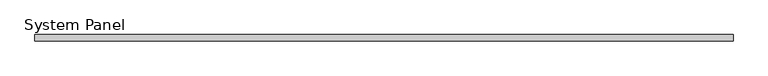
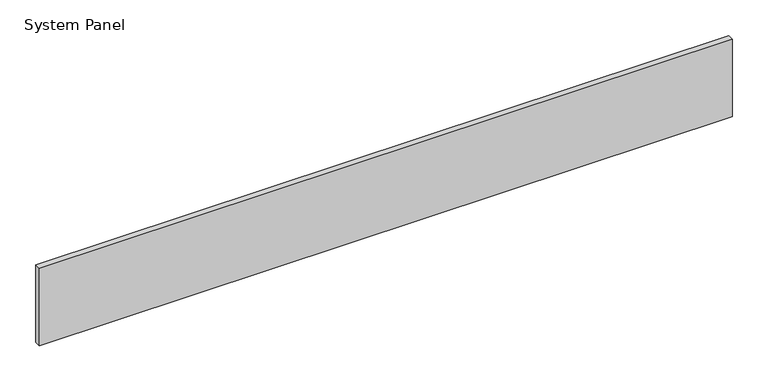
"""IFC4 building model written with IfcOpenShell, lengths in millimetres: plate geometry, System Panel : VACÍO."""

import ifcopenshell
import ifcopenshell.guid

model = None  # the IFC model being written
_history = None  # IfcOwnerHistory: only IFC2X3 demands one
_inside = {}  # id of a spatial element -> (the spatial element, [elements in it])
_under = {}  # id of a project, library or spatial element -> (it, [spatial elements below it])
_declared = {}  # id of a project -> (the project, [libraries it declares])
_typed = {}  # id of a type object -> (the type object, [elements of that type])
_made_of = {}  # id of a material, layer set ... -> (it, [elements and type objects made of it])


def new_model(schema):
    """Start an empty IFC model of exactly this schema.

    Asked for "IFC4X3", IfcOpenShell would pick the latest addendum, in which some entities
    have other attributes; the version numbers below select the first issue.
    IFC2X3 requires an IfcOwnerHistory on every rooted entity: one is made here for all.
    """
    global model, _history
    if schema == "IFC4X3":
        model = ifcopenshell.file(schema_version=(4, 3, 0, 0))
    else:
        model = ifcopenshell.file(schema=schema)
    _inside.clear()
    _under.clear()
    _declared.clear()
    _typed.clear()
    _made_of.clear()
    _history = None
    if model.schema == "IFC2X3":
        org = make("IfcOrganization", Name="unknown")
        user = make(
            "IfcPersonAndOrganization",
            ThePerson=make("IfcPerson", FamilyName="unknown"),
            TheOrganization=org,
        )
        app = make(
            "IfcApplication",
            ApplicationDeveloper=org,
            Version="unknown",
            ApplicationFullName="unknown",
            ApplicationIdentifier="unknown",
        )
        _history = make(
            "IfcOwnerHistory",
            OwningUser=user,
            OwningApplication=app,
            ChangeAction="ADDED",
            CreationDate=0,
        )
    return model


def make(cls, **values):
    """One entity of the class cls with the attributes given. An attribute that is None is left unset."""
    return model.create_entity(
        cls, **{name: value for name, value in values.items() if value is not None}
    )


def rooted(cls, **values):
    """An entity with a GlobalId (a new one), such as an element, a storey or a relation."""
    return make(cls, GlobalId=ifcopenshell.guid.new(), OwnerHistory=_history, **values)


def si_unit(unit_type, name, prefix=None):
    """IfcSIUnit, for example si_unit("LENGTHUNIT", "METRE", prefix="MILLI")."""
    return make("IfcSIUnit", UnitType=unit_type, Prefix=prefix, Name=name)


def assignment(units):
    """IfcUnitAssignment: the units of a project."""
    return None if units is None else make("IfcUnitAssignment", Units=units)


def point(xyz):
    """IfcCartesianPoint."""
    return None if xyz is None else make("IfcCartesianPoint", Coordinates=xyz)


def direction(xyz):
    """IfcDirection."""
    return None if xyz is None else make("IfcDirection", DirectionRatios=xyz)


def frame(location, z_axis=None, x_axis=None):
    """IfcAxis2Placement3D, a coordinate frame: its origin and axes. An axis left out is left unset."""
    return make(
        "IfcAxis2Placement3D",
        Location=point(location),
        Axis=direction(z_axis),
        RefDirection=direction(x_axis),
    )


def origin():
    """The frame at (0, 0, 0) with its axes left unset."""
    return frame((0.0, 0.0, 0.0))


def origin_with_axes():
    """The frame at (0, 0, 0) with the z axis (0, 0, 1) and the x axis (1, 0, 0) written out."""
    return frame((0.0, 0.0, 0.0), z_axis=(0.0, 0.0, 1.0), x_axis=(1.0, 0.0, 0.0))


def place(relative_to, where):
    """IfcLocalPlacement: puts the frame where relative to a parent placement (None: the world)."""
    return make(
        "IfcLocalPlacement", PlacementRelTo=relative_to, RelativePlacement=where
    )


def context(
    kind, dimensions, precision=None, world=None, true_north=None, identifier=None
):
    """IfcGeometricRepresentationContext, for example the 3D "Model" context."""
    return make(
        "IfcGeometricRepresentationContext",
        ContextIdentifier=identifier,
        ContextType=kind,
        CoordinateSpaceDimension=dimensions,
        Precision=precision,
        WorldCoordinateSystem=world,
        TrueNorth=true_north,
    )


def project(units=None, contexts=None):
    """IfcProject with its units and contexts."""
    return rooted(
        "IfcProject",
        Name="project",
        RepresentationContexts=contexts,
        UnitsInContext=assignment(units),
    )


def spatial(cls, under=None, at=None, **own):
    """A site, building, storey or space (cls), placed at a placement, below another one or the project."""
    s = rooted(cls, ObjectPlacement=at, **own)
    if under is not None:
        _under.setdefault(under.id(), (under, []))[1].append(s)
    return s


def polyline(points):
    """IfcPolyline through the points."""
    return make("IfcPolyline", Points=[point(p) for p in points])


def outline(outer, holes=None, kind="AREA"):
    """IfcArbitraryClosedProfileDef: a profile drawn as a closed curve; with holes, ...WithVoids."""
    if holes is None:
        return make("IfcArbitraryClosedProfileDef", ProfileType=kind, OuterCurve=outer)
    return make(
        "IfcArbitraryProfileDefWithVoids",
        ProfileType=kind,
        OuterCurve=outer,
        InnerCurves=holes,
    )


def extrude(swept, where, along, depth):
    """IfcExtrudedAreaSolid: the profile swept, set in the frame where, extruded along a direction by depth."""
    return make(
        "IfcExtrudedAreaSolid",
        SweptArea=swept,
        Position=where,
        ExtrudedDirection=direction(along),
        Depth=depth,
    )


def shape(context_of_items, identifier, shape_type, items):
    """IfcShapeRepresentation: the items that make up one representation, for example the "Body"."""
    return make(
        "IfcShapeRepresentation",
        ContextOfItems=context_of_items,
        RepresentationIdentifier=identifier,
        RepresentationType=shape_type,
        Items=items,
    )


def source(mapping_origin, context_of_items, identifier, shape_type, items):
    """IfcRepresentationMap: a shape defined once, which mapped items show again and again."""
    return make(
        "IfcRepresentationMap",
        MappingOrigin=mapping_origin,
        MappedRepresentation=shape(context_of_items, identifier, shape_type, items),
    )


def transform(
    local_origin,
    x_axis=None,
    y_axis=None,
    z_axis=None,
    scale=None,
    scale2=None,
    scale3=None,
    uniform=True,
):
    """IfcCartesianTransformationOperator3D, or its non-uniform kind. x_axis, y_axis, z_axis: its Axis1, 2, 3."""
    if uniform:
        return make(
            "IfcCartesianTransformationOperator3D",
            Axis1=direction(x_axis),
            Axis2=direction(y_axis),
            LocalOrigin=point(local_origin),
            Scale=scale,
            Axis3=direction(z_axis),
        )
    return make(
        "IfcCartesianTransformationOperator3DnonUniform",
        Axis1=direction(x_axis),
        Axis2=direction(y_axis),
        LocalOrigin=point(local_origin),
        Scale=scale,
        Axis3=direction(z_axis),
        Scale2=scale2,
        Scale3=scale3,
    )


def mapped(mapping_source, mapping_target):
    """IfcMappedItem: shows the shape of a source again, moved by a transform."""
    return make(
        "IfcMappedItem", MappingSource=mapping_source, MappingTarget=mapping_target
    )


def made_of(thing, what):
    """Note that an element or type object is made of a material, layer set ...; save() writes the relation."""
    if what is not None:
        _made_of.setdefault(what.id(), (what, []))[1].append(thing)
    return thing


def element(
    cls,
    number,
    at=None,
    inside=None,
    cuts=None,
    type_object=None,
    material=None,
    context=None,
    identifier="Body",
    shape_type=None,
    held_by="IfcProductDefinitionShape",
    body=None,
    shapes=None,
    **own,
):
    """One element of the class cls, such as IfcWall. Its Tag is "e" and its number.

    at: its placement. inside: the storey or other place that contains it. cuts: it is an
    opening in that element (IfcRelVoidsElement). A single representation is given by context,
    identifier, shape_type and body (its items); several are given by shapes. held_by: the class
    of the entity that holds the representations. save() writes the other relations.
    """
    e = rooted(cls, Tag="e%d" % number, ObjectPlacement=at, **own)
    if body is not None:
        shapes = [shape(context, identifier, shape_type, body)]
    if shapes is not None:
        e.Representation = make(held_by, Representations=shapes)
    if inside is not None:
        _inside.setdefault(inside.id(), (inside, []))[1].append(e)
    if cuts is not None:
        rooted(
            "IfcRelVoidsElement", RelatingBuildingElement=cuts, RelatedOpeningElement=e
        )
    if type_object is not None:
        _typed.setdefault(type_object.id(), (type_object, []))[1].append(e)
    return made_of(e, material)


def aggregate(whole, parts):
    """IfcRelAggregates: a whole, such as a stair, and the parts it consists of."""
    return rooted("IfcRelAggregates", RelatingObject=whole, RelatedObjects=parts)


def save(model, path):
    """Write the relations noted so far, then the file.

    IfcRelAggregates (storeys below a building ...), IfcRelContainedInSpatialStructure (elements
    in a storey), IfcRelDefinesByType, IfcRelAssociatesMaterial and IfcRelDeclares: one each for
    every whole, place, type object, material and project.
    """
    for whole, parts in _under.values():
        aggregate(whole, parts)
    for where, things in _inside.values():
        rooted(
            "IfcRelContainedInSpatialStructure",
            RelatedElements=things,
            RelatingStructure=where,
        )
    for kind, things in _typed.values():
        rooted("IfcRelDefinesByType", RelatedObjects=things, RelatingType=kind)
    for what, things in _made_of.values():
        rooted("IfcRelAssociatesMaterial", RelatedObjects=things, RelatingMaterial=what)
    for by, libraries in _declared.values():
        rooted("IfcRelDeclares", RelatingContext=by, RelatedDefinitions=libraries)
    model.write(path)


def system_panel_1aced122(model_context):
    return source(origin(), model_context, "Body", "SweptSolid", [
        extrude(outline(polyline([(557.6350437, -5.0), (-557.6350437, -5.0), (-557.6350437, 5.0), (557.6350437, 5.0), (557.6350437, -5.0)])), origin_with_axes(), (0.0, 0.0, 1.0), 132.033564),
    ])


if __name__ == "__main__":
    model = new_model("IFC4")
    model_context = context("Model", 3, world=origin())
    ifc_project = project(units=[si_unit("LENGTHUNIT", "METRE", prefix="MILLI")], contexts=[model_context])
    site = spatial("IfcSite", under=ifc_project)
    building = spatial("IfcBuilding", under=site)
    placement = place(None, origin())
    system_panel_shape = system_panel_1aced122(model_context)
    element("IfcPlate", 1, ObjectType="System Panel : VACÍO", at=placement, inside=building, context=model_context, shape_type="MappedRepresentation", body=[
        mapped(system_panel_shape, transform((0.0, 0.0, 0.0), x_axis=(1.0, 0.0, 0.0), y_axis=(0.0, 1.0, 0.0), z_axis=(0.0, 0.0, 1.0))),
    ])
    save(model, "model.ifc")
